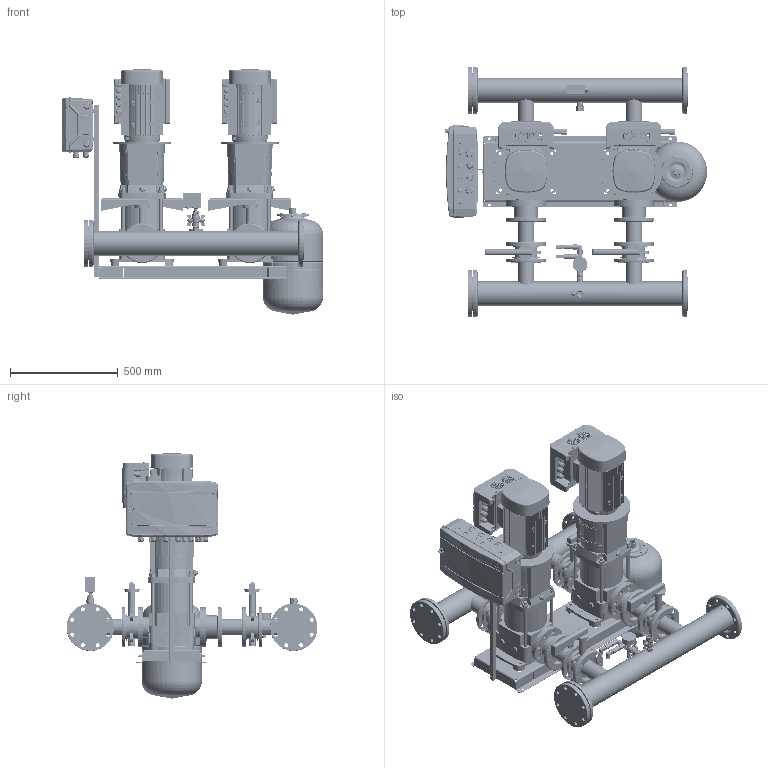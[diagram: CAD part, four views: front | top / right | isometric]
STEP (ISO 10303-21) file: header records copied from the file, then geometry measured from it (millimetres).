
FILE_DESCRIPTION(('CATIA V5 STEP Exchange','CAx-IF Rec.Pracs.--- Model Styling and Organization---1.4--- 2014-01-23','CAx-IF Rec.Pracs.---3D Tessellated Data Validation Properties---0.5---2014-09-14'),'2;1');
FILE_NAME('C:\Users\78432\YandexDisk\Drawings and 3D\3D Hydro Booster\Hydro-ME 3D\Hydro Models\Hydro ME 2 CRV32-xx\Hydro ME 2 CRVE32-2-2.stp','2023-09-20T13:22:51+00:00',('none'),('none'),'CATIA Version 5-6 Release 2019 SP6','CATIA V5 STEP AP242 v1','none');
FILE_SCHEMA(('AP242_MANAGED_MODEL_BASED_3D_ENGINEERING_MIM_LF {1 0 10303 442 1 1 4}'));
Length unit declared in the file: millimetre
Products named in the file (52): Hydro ME 2 CRVE32-2-2; 92051010; CRV32-2-2 set; CRV 32-2-2_A_DIN_3kW; Base; Flange.1; Flange.2; Sleeve; Pumphead; Staybolt.1; Staybolt.2; Staybolt.3; Staybolt.4; AirVent; Motor; Plug; Non-Return Valve DN65 cpl.; 92802786; 00id2586; Buttefly Valve DN65 cpl.; 92802749; 96619619; 91040447; 91070072; 99110036; SAJ PDH30 4-7,5kW; 97941447; 405801; 91041068; 91070074; 97941484; 99110038; 00ID6959; Holder and CP 18mod; 92878909; Control ME (18mod); 2 sensors + manometer cpl.; manometr 16 bar; RPD-I-G1_2; 9021-01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
Assembly tree (69 placements, depth 4):
  Hydro ME 2 CRVE32-2-2
    92051010
    CRV32-2-2 set  x2
      CRV 32-2-2_A_DIN_3kW
        Base
        Flange.1
        Flange.2
        Sleeve
        Pumphead
        Staybolt.1
        Staybolt.2
        Staybolt.3
        Staybolt.4
        AirVent
        Motor
        Plug
      Non-Return Valve DN65 cpl.
        92802786
        00id2586  x2
      Buttefly Valve DN65 cpl.
        92802749
        00id2586  x2
      96619619
        91040447
        91070072  x2
        99110036  x2
      SAJ PDH30 4-7,5kW
    97941447  x2
      405801
      91041068
      91070072
      91070074
      97941484
      99110036
      99110038
    00ID6959  x2
    Holder and CP 18mod
      92878909
      Control ME (18mod)
    2 sensors + manometer cpl.
      manometr 16 bar
      RPD-I-G1_2  x2
      9021-01
      2070 1/2-1/2
      _2020 1/2-1/2
      98594078
    Tank 24L cpl.
      DN20_FF_BF_47.300.20
      9021-03
    Relay cpl.
      Relay RD-2R
      DN20_FF_BF_47.300.20
      2530 3/4-1/2
      _2530 1/2-1/4
    91078139
  WAV-24(D140 1'')
Bounding box: 1216.82 x 1164.37 x 1142.73 mm (x, y, z)
Volume: 103987384.2 mm3; surface area: 10827285.6 mm2
Topology: 224 solids, 448 shells, 22825 faces, 65140 edges, 43886 vertices
Faces by surface type: plane 10056, cylinder 5393, bspline 5004, cone 1755, torus 468, sphere 149
Entity records: 626170 total; most frequent: CARTESIAN_POINT 312835, ORIENTED_EDGE 79689, EDGE_CURVE 40385, DIRECTION 37466, VERTEX_POINT 27068, VECTOR 17619, LINE 17619, EDGE_LOOP 15998
